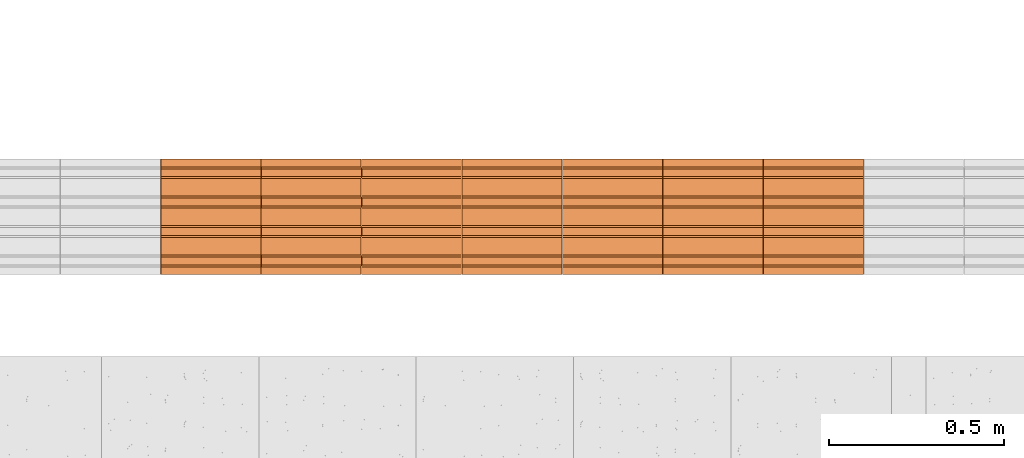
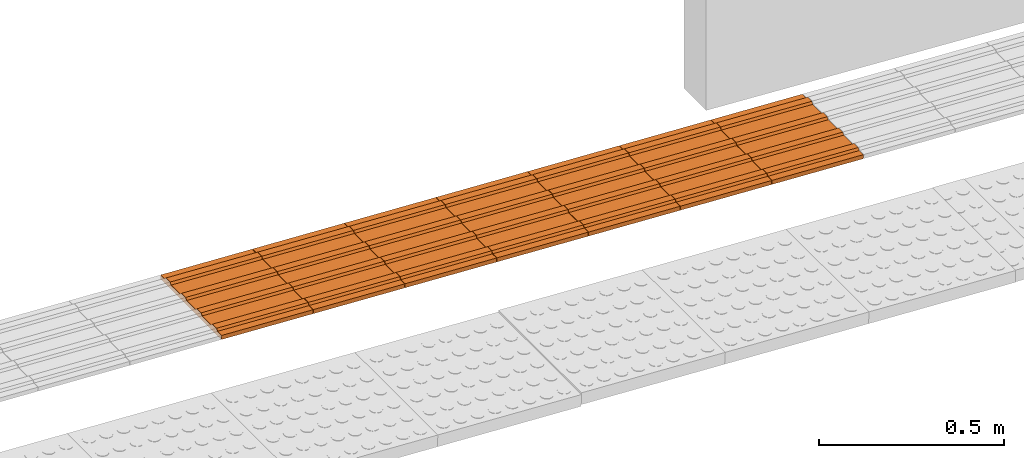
# One storey, part 190 of 237: 7 proxies.
"""IFC2X3 building model written with IfcOpenShell, lengths in millimetres."""

from ifc_helpers import new_model, entity, si_unit, converted_unit, derived_unit, money_unit, direction, frame, origin_with_axes, place, context, subcontext, project, spatial, open_shell, surface_model, source, transform, mapped, type_object, element, save


model = new_model("IFC2X3")

# Units and contexts
model_context = context("Model", 3, precision=0.01, world=origin_with_axes(), true_north=direction((0.0, 1.0)))
body_context = subcontext(model_context, "Body", "Model", "MODEL_VIEW")
ifc_project = project(units=[si_unit("LENGTHUNIT", "METRE", prefix="MILLI"), si_unit("AREAUNIT", "SQUARE_METRE"), si_unit("VOLUMEUNIT", "CUBIC_METRE"), converted_unit("PLANEANGLEUNIT", "DEGREE", entity("IfcPlaneAngleMeasure", 0.0174532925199), si_unit("PLANEANGLEUNIT", "RADIAN"), dimensions=[0, 0, 0, 0, 0, 0, 0]), money_unit("USD"), converted_unit("TIMEUNIT", "Year", entity("IfcTimeMeasure", 31556926.0), si_unit("TIMEUNIT", "SECOND"), dimensions=[0, 0, 1, 0, 0, 0, 0]), si_unit("MASSUNIT", "GRAM", prefix="KILO"), si_unit("THERMODYNAMICTEMPERATUREUNIT", "DEGREE_CELSIUS"), si_unit("LUMINOUSINTENSITYUNIT", "LUMEN"), si_unit("ENERGYUNIT", "JOULE", prefix="MEGA"), derived_unit("THERMALCONDUCTANCEUNIT", [(si_unit("POWERUNIT", "WATT"), 1), (si_unit("LENGTHUNIT", "METRE"), -1), (si_unit("THERMODYNAMICTEMPERATUREUNIT", "KELVIN"), -1)]), derived_unit("SPECIFICHEATCAPACITYUNIT", [(si_unit("ENERGYUNIT", "JOULE"), 1), (si_unit("MASSUNIT", "GRAM", prefix="KILO"), -1), (si_unit("THERMODYNAMICTEMPERATUREUNIT", "KELVIN"), -1)]), derived_unit("MASSDENSITYUNIT", [(si_unit("MASSUNIT", "GRAM", prefix="KILO"), 1), (si_unit("VOLUMEUNIT", "CUBIC_METRE"), -1)])], contexts=[model_context])

# Site, building, storey
site_placement = place(None, origin_with_axes())
site = spatial("IfcSite", under=ifc_project, at=site_placement, Name="Local", CompositionType="ELEMENT")
building_placement = place(site_placement, origin_with_axes())
building = spatial("IfcBuilding", under=site, at=building_placement, Name="Construção", CompositionType="ELEMENT")
storey_placement = place(building_placement, origin_with_axes())
storey = spatial("IfcBuildingStorey", under=building, at=storey_placement, Name="Pavimento Térreo", CompositionType="ELEMENT", Elevation=0.0)

# Proxies
building_element_proxy_type = type_object("IfcBuildingElementProxyType", Name="Piso Direcional 27", PredefinedType="NOTDEFINED")
shared_shape = source(origin_with_axes(), body_context, "Body", "SurfaceModel", [
    surface_model("IfcShellBasedSurfaceModel", [(-0.210134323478, -47.258225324, 4.02303628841), (285.108160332, -47.258225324, 18.9260007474), (284.760415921, -41.665004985, 25.5835917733), (-0.557878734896, -41.665004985, 10.6806273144)], [open_shell([[[0, 1, 2, 3]]])]),
    surface_model("IfcShellBasedSurfaceModel", [(285.803649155, -153.529411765, 5.61081869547), (285.803649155, 176.470588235, 5.61081869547), (285.108160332, 176.470588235, 18.9260007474), (285.108160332, 154.097706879, 18.9260007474), (284.760415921, 148.50448654, 25.5835917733), (284.760415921, 126.131605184, 25.5835917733), (285.108160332, 120.538384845, 18.9260007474), (285.108160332, 70.1994017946, 18.9260007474), (284.760415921, 64.6061814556, 25.5835917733), (284.760415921, 42.2333000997, 25.5835917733), (285.108160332, 36.6400797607, 18.9260007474), (285.108160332, -13.6989032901, 18.9260007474), (284.760415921, -19.2921236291, 25.5835917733), (284.760415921, -41.665004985, 25.5835917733), (285.108160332, -47.258225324, 18.9260007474), (285.108160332, -97.5972083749, 18.9260007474), (284.760415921, -103.190428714, 25.5835917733), (284.760415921, -125.56331007, 25.5835917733), (285.108160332, -131.156530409, 18.9260007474), (285.108160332, -153.529411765, 18.9260007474)], [open_shell([[[0, 1, 2, 3, 4, 5, 6, 7, 8, 9, 10, 11, 12, 13, 14, 15, 16, 17, 18, 19]]])]),
    surface_model("IfcShellBasedSurfaceModel", [(-0.557878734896, -19.2921236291, 10.6806273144), (284.760415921, -19.2921236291, 25.5835917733), (285.108160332, -13.6989032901, 18.9260007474), (-0.210134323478, -13.6989032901, 4.02303628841)], [open_shell([[[0, 1, 2, 3]]])]),
    surface_model("IfcShellBasedSurfaceModel", [(-0.557878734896, -103.190428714, 10.6806273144), (284.760415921, -103.190428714, 25.5835917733), (285.108160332, -97.5972083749, 18.9260007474), (-0.210134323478, -97.5972083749, 4.02303628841)], [open_shell([[[0, 1, 2, 3]]])]),
    surface_model("IfcShellBasedSurfaceModel", [(-0.557878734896, 64.6061814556, 10.6806273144), (284.760415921, 64.6061814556, 25.5835917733), (285.108160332, 70.1994017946, 18.9260007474), (-0.210134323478, 70.1994017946, 4.02303628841)], [open_shell([[[0, 1, 2, 3]]])]),
    surface_model("IfcShellBasedSurfaceModel", [(-0.210134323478, 36.6400797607, 4.02303628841), (285.108160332, 36.6400797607, 18.9260007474), (284.760415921, 42.2333000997, 25.5835917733), (-0.557878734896, 42.2333000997, 10.6806273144)], [open_shell([[[0, 1, 2, 3]]])]),
    surface_model("IfcShellBasedSurfaceModel", [(-0.210134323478, -131.156530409, 4.02303628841), (285.108160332, -131.156530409, 18.9260007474), (284.760415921, -125.56331007, 25.5835917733), (-0.557878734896, -125.56331007, 10.6806273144)], [open_shell([[[0, 1, 2, 3]]])]),
    surface_model("IfcShellBasedSurfaceModel", [(-0.210134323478, 176.470588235, 4.02303628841), (-0.210134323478, 154.097706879, 4.02303628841), (285.108160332, 154.097706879, 18.9260007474), (285.108160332, 176.470588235, 18.9260007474)], [open_shell([[[0, 1, 2, 3]]])]),
    surface_model("IfcShellBasedSurfaceModel", [(-0.210134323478, 120.538384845, 4.02303628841), (285.108160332, 120.538384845, 18.9260007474), (284.760415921, 126.131605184, 25.5835917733), (-0.557878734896, 126.131605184, 10.6806273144)], [open_shell([[[0, 1, 2, 3]]])]),
    surface_model("IfcShellBasedSurfaceModel", [(-0.557878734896, 148.50448654, 10.6806273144), (284.760415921, 148.50448654, 25.5835917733), (285.108160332, 154.097706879, 18.9260007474), (-0.210134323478, 154.097706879, 4.02303628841)], [open_shell([[[0, 1, 2, 3]]])]),
    surface_model("IfcShellBasedSurfaceModel", [(-0.210134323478, 36.6400797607, 4.02303628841), (-0.210134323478, -13.6989032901, 4.02303628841), (285.108160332, -13.6989032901, 18.9260007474), (285.108160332, 36.6400797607, 18.9260007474)], [open_shell([[[0, 1, 2, 3]]])]),
    surface_model("IfcShellBasedSurfaceModel", [(-0.210134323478, 120.538384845, 4.02303628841), (-0.210134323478, 70.1994017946, 4.02303628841), (285.108160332, 70.1994017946, 18.9260007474), (285.108160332, 120.538384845, 18.9260007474)], [open_shell([[[0, 1, 2, 3]]])]),
    surface_model("IfcShellBasedSurfaceModel", [(-0.557878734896, 148.50448654, 10.6806273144), (-0.557878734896, 126.131605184, 10.6806273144), (284.760415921, 126.131605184, 25.5835917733), (284.760415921, 148.50448654, 25.5835917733)], [open_shell([[[0, 1, 2, 3]]])]),
    surface_model("IfcShellBasedSurfaceModel", [(-0.210134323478, 120.538384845, 4.02303628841), (-0.557878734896, 126.131605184, 10.6806273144), (-0.557878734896, 148.50448654, 10.6806273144), (-0.210134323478, 154.097706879, 4.02303628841), (-0.210134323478, 176.470588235, 4.02303628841), (0.48535449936, 176.470588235, -9.29214576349), (0.48535449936, -153.529411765, -9.29214576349), (-0.210134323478, -153.529411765, 4.02303628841), (-0.210134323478, -131.156530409, 4.02303628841), (-0.557878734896, -125.56331007, 10.6806273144), (-0.557878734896, -103.190428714, 10.6806273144), (-0.210134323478, -97.5972083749, 4.02303628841), (-0.210134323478, -47.258225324, 4.02303628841), (-0.557878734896, -41.665004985, 10.6806273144), (-0.557878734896, -19.2921236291, 10.6806273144), (-0.210134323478, -13.6989032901, 4.02303628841), (-0.210134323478, 36.6400797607, 4.02303628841), (-0.557878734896, 42.2333000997, 10.6806273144), (-0.557878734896, 64.6061814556, 10.6806273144), (-0.210134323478, 70.1994017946, 4.02303628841)], [open_shell([[[0, 1, 2, 3, 4, 5, 6, 7, 8, 9, 10, 11, 12, 13, 14, 15, 16, 17, 18, 19]]])]),
    surface_model("IfcShellBasedSurfaceModel", [(284.760415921, -41.665004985, 25.5835917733), (284.760415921, -19.2921236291, 25.5835917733), (-0.557878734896, -19.2921236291, 10.6806273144), (-0.557878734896, -41.665004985, 10.6806273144)], [open_shell([[[0, 1, 2, 3]]])]),
    surface_model("IfcShellBasedSurfaceModel", [(-0.210134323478, -47.258225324, 4.02303628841), (-0.210134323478, -97.5972083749, 4.02303628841), (285.108160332, -97.5972083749, 18.9260007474), (285.108160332, -47.258225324, 18.9260007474)], [open_shell([[[0, 1, 2, 3]]])]),
    surface_model("IfcShellBasedSurfaceModel", [(284.760415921, 42.2333000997, 25.5835917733), (284.760415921, 64.6061814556, 25.5835917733), (-0.557878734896, 64.6061814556, 10.6806273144), (-0.557878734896, 42.2333000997, 10.6806273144)], [open_shell([[[0, 1, 2, 3]]])]),
    surface_model("IfcShellBasedSurfaceModel", [(284.760415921, -125.56331007, 25.5835917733), (284.760415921, -103.190428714, 25.5835917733), (-0.557878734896, -103.190428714, 10.6806273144), (-0.557878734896, -125.56331007, 10.6806273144)], [open_shell([[[0, 1, 2, 3]]])]),
    surface_model("IfcShellBasedSurfaceModel", [(285.803649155, 176.470588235, 5.61081869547), (0.48535449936, 176.470588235, -9.29214576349), (-0.210134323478, 176.470588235, 4.02303628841), (285.108160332, 176.470588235, 18.9260007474)], [open_shell([[[0, 1, 2, 3]]])]),
    surface_model("IfcShellBasedSurfaceModel", [(285.803649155, -153.529411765, 5.61081869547), (0.48535449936, -153.529411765, -9.29214576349), (0.48535449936, 176.470588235, -9.29214576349), (285.803649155, 176.470588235, 5.61081869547)], [open_shell([[[0, 1, 2, 3]]])]),
    surface_model("IfcShellBasedSurfaceModel", [(285.108160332, -153.529411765, 18.9260007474), (285.108160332, -131.156530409, 18.9260007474), (-0.210134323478, -131.156530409, 4.02303628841), (-0.210134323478, -153.529411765, 4.02303628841)], [open_shell([[[0, 1, 2, 3]]])]),
    surface_model("IfcShellBasedSurfaceModel", [(0.48535449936, -153.529411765, -9.29214576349), (285.803649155, -153.529411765, 5.61081869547), (285.108160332, -153.529411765, 18.9260007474), (-0.210134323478, -153.529411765, 4.02303628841)], [open_shell([[[0, 1, 2, 3]]])]),
])
for number, where, z_axis, x_axis, name in (
    (1, (125886.953816, 10834.0941893, -7519.62506973), (0.0, 0.0, 1.0), (-1.0, 0.0, 0.0), "Objeto-0055"),
    (2, (125600.349272, 10834.0941893, -7504.65492094), (0.0, 0.0, 1.0), (-1.0, 0.0, 0.0), "Objeto-0055"),
    (3, (125313.744729, 10834.0941893, -7489.68477214), (0.0, 0.0, 1.0), (-1.0, 0.0, 0.0), "Objeto-0055"),
    (4, (125027.140185, 10834.0941893, -7474.71462335), (0.0, 0.0, 1.0), (-1.0, 0.0, 0.0), "Objeto-0055"),
    (5, (124740.535642, 10834.0941893, -7459.74447456), (0.0, 0.0, 1.0), (-1.0, 0.0, 0.0), "Objeto-0055"),
    (6, (124453.931098, 10834.0941893, -7444.77432576), (0.0, 0.0, 1.0), (-1.0, 0.0, 0.0), "Objeto-0055"),
    (7, (124167.326555, 10834.0941893, -7429.80417697), (0.0, 0.0, 1.0), (-1.0, 0.0, 0.0), "Objeto-0055"),
):
    element("IfcBuildingElementProxy", number, at=place(storey_placement, frame(where, z_axis=z_axis, x_axis=x_axis)), inside=storey, type_object=building_element_proxy_type, Name=name, context=body_context, shape_type="MappedRepresentation", body=[
        mapped(shared_shape, transform((0.0, 0.0, 0.0))),
    ])

save(model, "model.ifc")
